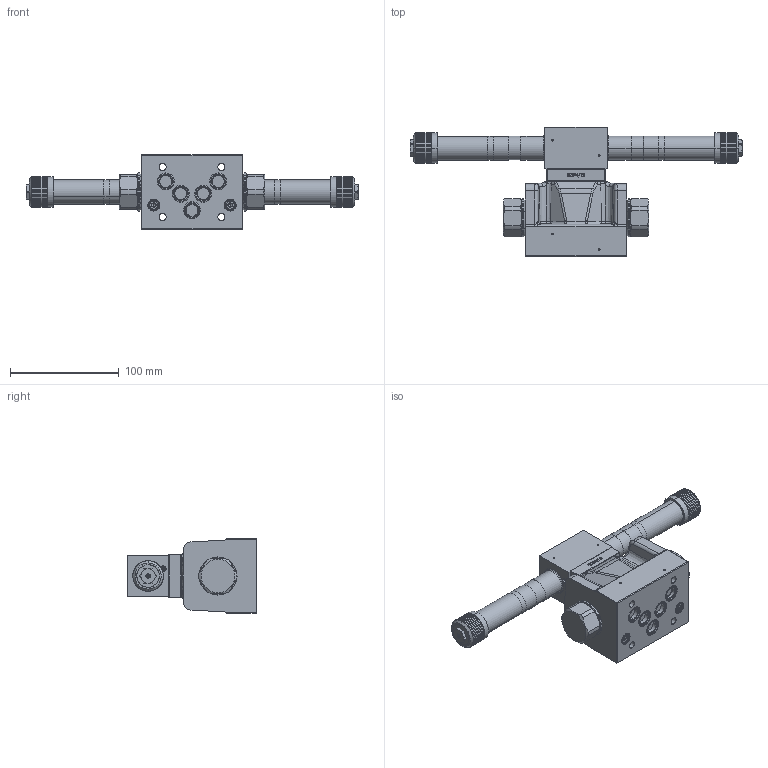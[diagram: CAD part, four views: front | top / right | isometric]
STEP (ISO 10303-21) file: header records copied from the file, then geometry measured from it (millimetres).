
FILE_DESCRIPTION (( 'STEP AP214' ), '1' );
FILE_NAME ('WVZFA10-4_3-ae_xi_xe_ti.STEP', '2019-06-26T06:57:56', ( '' ), ( '' ), 'SwSTEP 2.0', 'SolidWorks 2018', '' );
FILE_SCHEMA (( 'AUTOMOTIVE_DESIGN' ));
Length unit declared in the file: millimetre
Products named in the file (1): WVZFA10-4_3-ae_xi_xe_ti
Bounding box: 304.7 x 118.6 x 68 mm (x, y, z)
Volume: 596304.9 mm3; surface area: 89610.9 mm2
Topology: 13 solids, 17 shells, 1851 faces, 4773 edges, 3047 vertices
Faces by surface type: plane 875, cylinder 495, bspline 234, cone 170, torus 77
Entity records: 85026 total; most frequent: CARTESIAN_POINT 21364, ORIENTED_EDGE 9506, DIRECTION 8392, EDGE_CURVE 4753, VERTEX_POINT 3047, AXIS2_PLACEMENT_3D 2970, VECTOR 2452, LINE 2452
